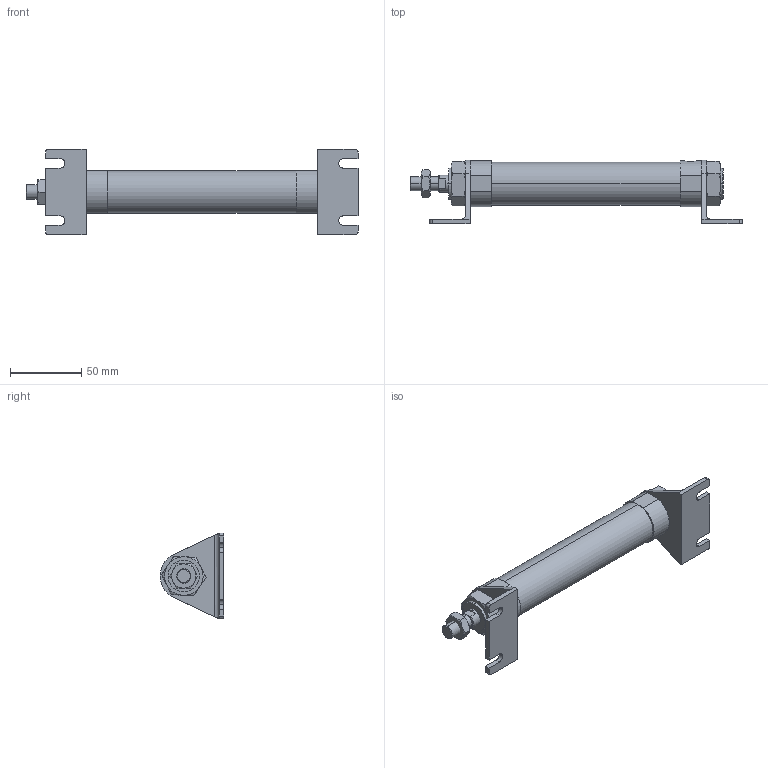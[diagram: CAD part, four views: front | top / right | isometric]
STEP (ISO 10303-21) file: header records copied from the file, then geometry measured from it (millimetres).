
FILE_DESCRIPTION (( 'STEP AP203' ), '1' );
FILE_NAME ('J#1-25-50-L.STEP', '2016-03-10T00:46:54', ( '' ), ( '' ), 'SwSTEP 2.0', 'SolidWorks 2014', '' );
FILE_SCHEMA (( 'CONFIG_CONTROL_DESIGN' ));
Length unit declared in the file: millimetre
Products named in the file (5): J#2-25-L; J#1-25-50; J#1-25-50-L
Assembly tree (6 placements, depth 2):
  J#1-25-50-L
    J#1-25-50
    (unnamed)
    (unnamed)  x2
    J#2-25-L  x2
Bounding box: 232.2 x 44.5 x 60 mm (x, y, z)
Volume: 154577.5 mm3; surface area: 38893.4 mm2
Topology: 6 solids, 6 shells, 167 faces, 392 edges, 241 vertices
Faces by surface type: plane 75, cylinder 48, torus 36, cone 8
Entity records: 4187 total; most frequent: CARTESIAN_POINT 947, DIRECTION 572, ORIENTED_EDGE 544, EDGE_CURVE 272, AXIS2_PLACEMENT_3D 228, VERTEX_POINT 167, EDGE_LOOP 131, FACE_OUTER_BOUND 119
